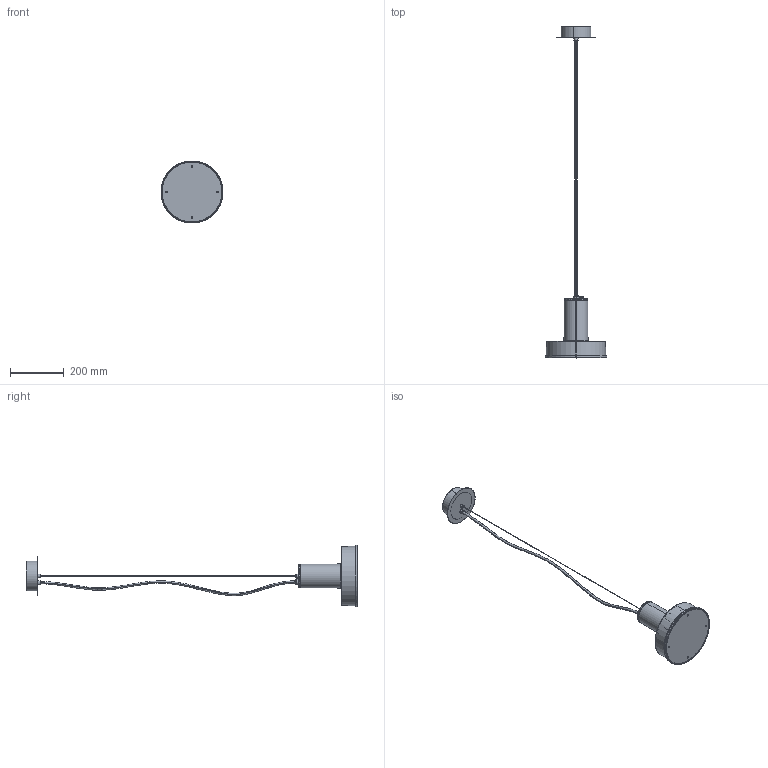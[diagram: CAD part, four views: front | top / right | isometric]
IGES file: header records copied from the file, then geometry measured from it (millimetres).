
Start section: SolidWorks IGES file using analytic representation for surfaces
Global section: file name: C:\SANTACOLE_PDM\Proyectos Catálogo\PROD-P17-016 -- ARNE S INDOOR\6_Técnico comercial\3D\Arne S Domus.IGS; native system: SolidWorks 2019; preprocessor: SolidWorks 2019; author: ana.pascual; date: 200406.180432; units: millimetre
Bounding box: 230.99 x 1237 x 230.99 mm (x, y, z)
Surface area: 384386.7 mm2 (no closed solid volume)
Topology: 0 solids, 0 shells, 2030 faces, 18260 edges, 18219 vertices
Faces by surface type: bspline 1288, revolution 742
